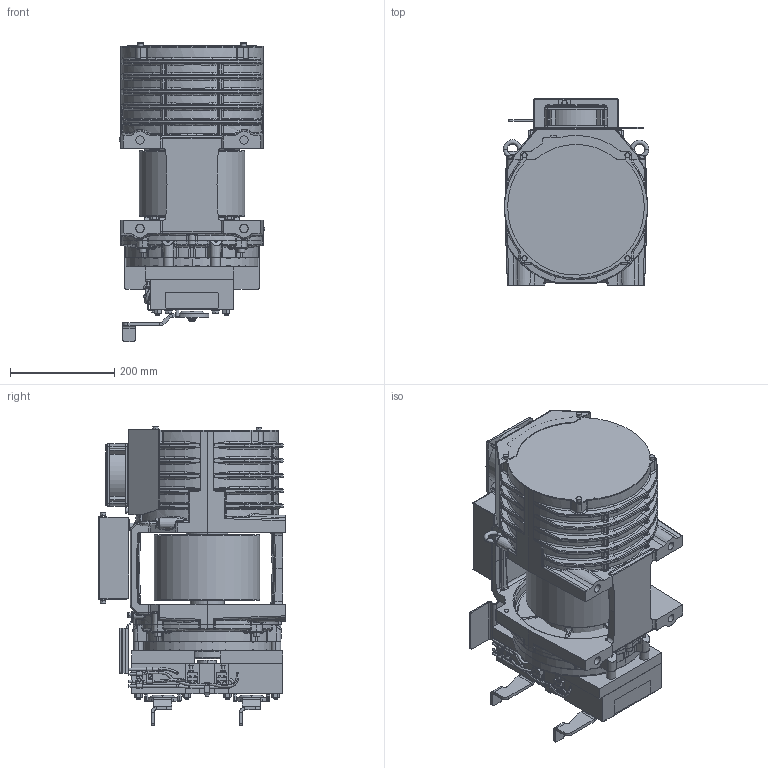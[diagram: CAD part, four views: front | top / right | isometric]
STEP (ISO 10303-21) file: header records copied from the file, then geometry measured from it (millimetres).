
FILE_DESCRIPTION((''),'2;1');
FILE_NAME('00349188_ASM','2019-06-03T',('polieridb'),('Sicor spa'),'CREO PARAMETRIC BY PTC INC, 2017170','CREO PARAMETRIC BY PTC INC, 2017170','');
FILE_SCHEMA(('CONFIG_CONTROL_DESIGN'));
Length unit declared in the file: millimetre
Products named in the file (3): 00332487_SW0001; 00279921; 00349188_ASM
Assembly tree (2 placements, depth 2):
  00349188_ASM
    00332487_SW0001
    00279921
Bounding box: 280 x 358 x 574.52 mm (x, y, z)
Volume: 2188570.7 mm3; surface area: 2012770.9 mm2
Topology: 1 solids, 172 shells, 3370 faces, 9175 edges, 5736 vertices
Faces by surface type: cylinder 928, bspline 917, plane 756, torus 379, cone 296, sphere 74, extrusion 13, revolution 7
Entity records: 197842 total; most frequent: CARTESIAN_POINT 123902, ORIENTED_EDGE 16330, DIRECTION 12991, EDGE_CURVE 9088, VERTEX_POINT 5736, AXIS2_PLACEMENT_3D 5221, B_SPLINE_CURVE_WITH_KNOTS 3798, EDGE_LOOP 3386
